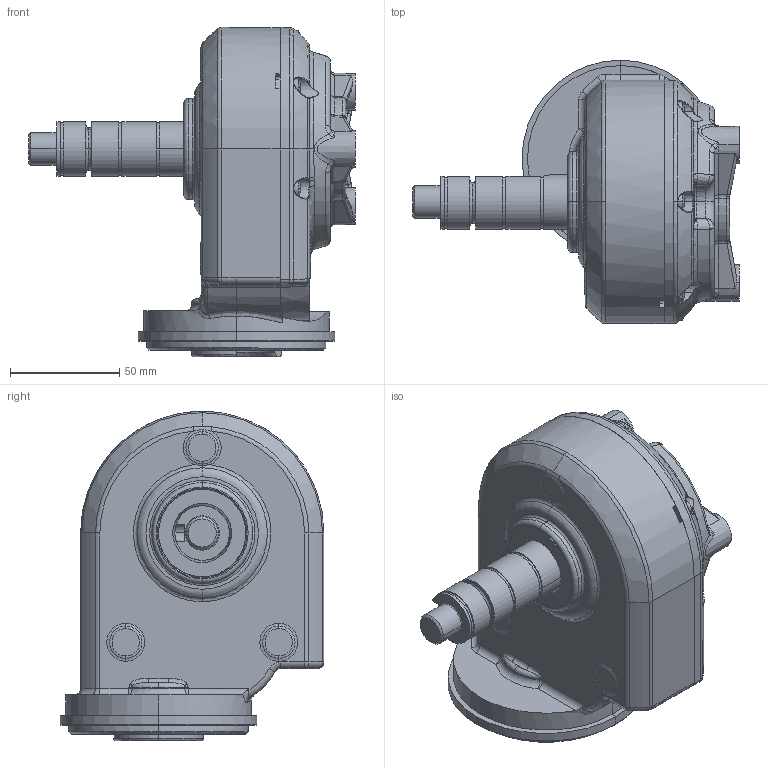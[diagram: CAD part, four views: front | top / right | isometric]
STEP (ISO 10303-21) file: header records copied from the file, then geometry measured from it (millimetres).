
FILE_DESCRIPTION (( 'STEP AP214' ), '1' );
FILE_NAME ('90BB-5109.STEP', '2026-01-21T12:47:59', ( '' ), ( '' ), 'SwSTEP 2.0', 'SolidWorks 2023', '' );
FILE_SCHEMA (( 'AUTOMOTIVE_DESIGN' ));
Length unit declared in the file: millimetre
Products named in the file (1): 90BB-5109
Bounding box: 149.6 x 120.65 x 150.65 mm (x, y, z)
Volume: 395897.4 mm3; surface area: 160013.8 mm2
Topology: 13 solids, 13 shells, 3170 faces, 7824 edges, 4706 vertices
Faces by surface type: plane 1004, bspline 967, cylinder 466, torus 352, cone 307, sphere 74
Entity records: 160218 total; most frequent: CARTESIAN_POINT 57304, ORIENTED_EDGE 15456, DIRECTION 12453, EDGE_CURVE 7728, AXIS2_PLACEMENT_3D 4741, VERTEX_POINT 4706, EDGE_LOOP 3318, UNCERTAINTY_MEASURE_WITH_UNIT 3184
